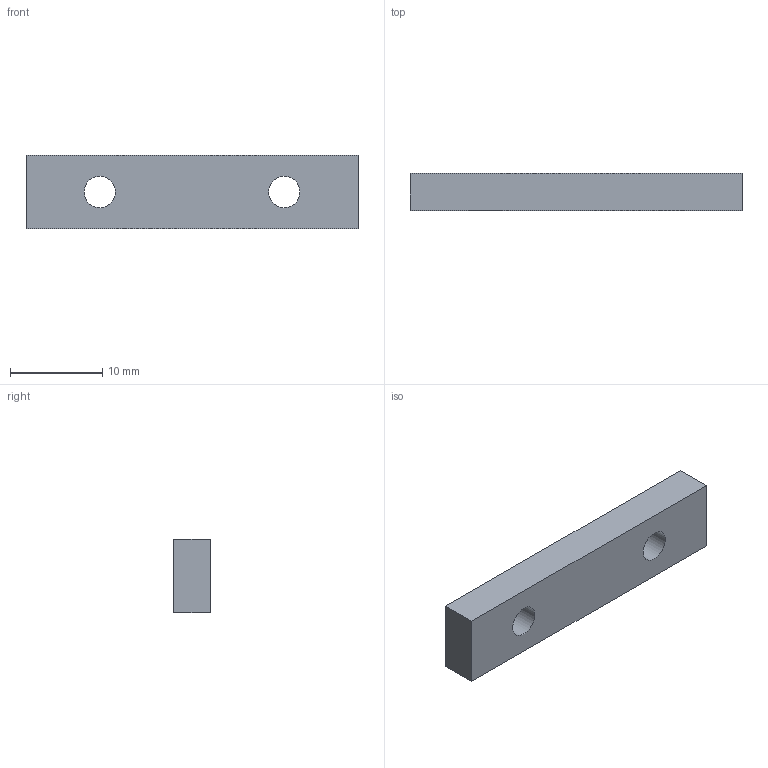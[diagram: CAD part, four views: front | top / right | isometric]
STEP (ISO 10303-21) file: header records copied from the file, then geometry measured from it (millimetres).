
FILE_DESCRIPTION(('Open CASCADE Model'),'2;1');
FILE_NAME('Open CASCADE Shape Model','2026-10-23T16:06:27',('Author'),( 'Open CASCADE'),'Open CASCADE STEP processor 7.8','Open CASCADE 7.8' ,'Unknown');
FILE_SCHEMA(('AUTOMOTIVE_DESIGN { 1 0 10303 214 1 1 1 1 }'));
Length unit declared in the file: millimetre
Products named in the file (1): Open CASCADE STEP translator 7.8 7
Bounding box: 36 x 4 x 8 mm (x, y, z)
Volume: 1079.4 mm3; surface area: 977.1 mm2
Topology: 1 solids, 1 shells, 8 faces, 18 edges, 12 vertices
Faces by surface type: plane 6, cylinder 2
Full cylindrical faces by diameter (mm): 3.4 x2
Entity records: 478 total; most frequent: DIRECTION 76, CARTESIAN_POINT 75, LINE 46, VECTOR 46, ORIENTED_EDGE 36, PCURVE 36, DEFINITIONAL_REPRESENTATION 36, EDGE_CURVE 18
